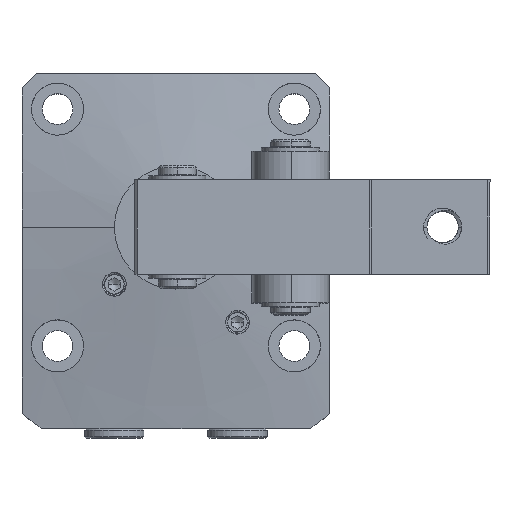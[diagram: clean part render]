
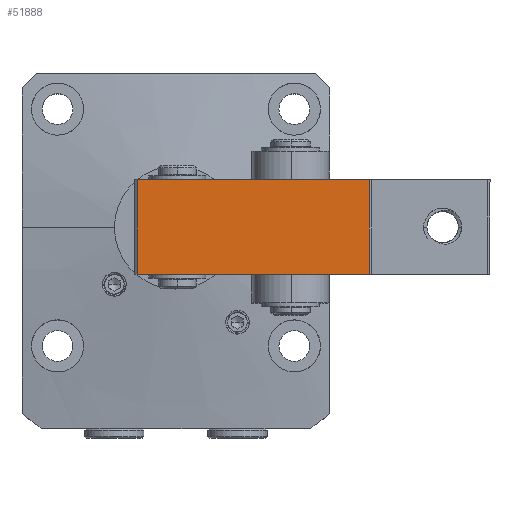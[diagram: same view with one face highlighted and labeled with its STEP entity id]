
A CAD part, top view. The second image highlights one B-rep face of the part: STEP entity #51888.
In plain terms, the highlighted planar face has unit normal (0, 0, 1) as drawn and (-0.124, 0, 0.992) by its records, which use the part's own axes.
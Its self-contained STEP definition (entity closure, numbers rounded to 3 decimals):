
#279 = VECTOR ( 'NONE', #40420, 1000. ) ;
#608 = LINE ( 'NONE', #1140, #279 ) ;
#1140 = CARTESIAN_POINT ( 'NONE',  ( 6.33, 14., 17.921 ) ) ;
#1521 = CARTESIAN_POINT ( 'NONE',  ( 6.33, -6., 17.921 ) ) ;
#1823 = EDGE_CURVE ( 'NONE', #10669, #33674, #23770, .T. ) ;
#3820 = AXIS2_PLACEMENT_3D ( 'NONE', #1521, #57519, #24157 ) ;
#7285 = VECTOR ( 'NONE', #23230, 1000. ) ;
#7427 = LINE ( 'NONE', #23484, #7285 ) ;
#10669 = VERTEX_POINT ( 'NONE', #19231 ) ;
#13964 = CARTESIAN_POINT ( 'NONE',  ( -42.293, -6., 11.856 ) ) ;
#14096 = ORIENTED_EDGE ( 'NONE', *, *, #40631, .T. ) ;
#19231 = CARTESIAN_POINT ( 'NONE',  ( 6.33, -6., 17.921 ) ) ;
#21795 = CARTESIAN_POINT ( 'NONE',  ( 6.33, 14., 17.921 ) ) ;
#23129 = VECTOR ( 'NONE', #43033, 1000. ) ;
#23230 = DIRECTION ( 'NONE',  ( 0.992, 0., 0.124 ) ) ;
#23484 = CARTESIAN_POINT ( 'NONE',  ( 6.33, -6., 17.921 ) ) ;
#23770 = LINE ( 'NONE', #42586, #23129 ) ;
#24157 = DIRECTION ( 'NONE',  ( 0.992, 0., 0.124 ) ) ;
#32219 = EDGE_CURVE ( 'NONE', #43811, #10669, #7427, .T. ) ;
#33674 = VERTEX_POINT ( 'NONE', #21795 ) ;
#34195 = VERTEX_POINT ( 'NONE', #54521 ) ;
#35578 = VECTOR ( 'NONE', #58939, 1000. ) ;
#35646 = LINE ( 'NONE', #60003, #35578 ) ;
#39048 = ORIENTED_EDGE ( 'NONE', *, *, #32219, .T. ) ;
#40420 = DIRECTION ( 'NONE',  ( -0.992, 0., -0.124 ) ) ;
#40631 = EDGE_CURVE ( 'NONE', #34195, #43811, #35646, .T. ) ;
#41821 = ORIENTED_EDGE ( 'NONE', *, *, #1823, .T. ) ;
#42586 = CARTESIAN_POINT ( 'NONE',  ( 6.33, -6., 17.921 ) ) ;
#43033 = DIRECTION ( 'NONE',  ( 0., 1., 0. ) ) ;
#43811 = VERTEX_POINT ( 'NONE', #13964 ) ;
#48825 = FACE_OUTER_BOUND ( 'NONE', #70991, .T. ) ;
#51888 = ADVANCED_FACE ( 'NONE', ( #48825 ), #52009, .T. ) ;
#52009 = PLANE ( 'NONE',  #3820 ) ;
#54521 = CARTESIAN_POINT ( 'NONE',  ( -42.293, 14., 11.856 ) ) ;
#57519 = DIRECTION ( 'NONE',  ( -0.124, 0., 0.992 ) ) ;
#58939 = DIRECTION ( 'NONE',  ( 0., -1., 0. ) ) ;
#60003 = CARTESIAN_POINT ( 'NONE',  ( -42.293, -6., 11.856 ) ) ;
#60836 = EDGE_CURVE ( 'NONE', #33674, #34195, #608, .T. ) ;
#65454 = ORIENTED_EDGE ( 'NONE', *, *, #60836, .T. ) ;
#70991 = EDGE_LOOP ( 'NONE', ( #65454, #14096, #39048, #41821 ) ) ;
